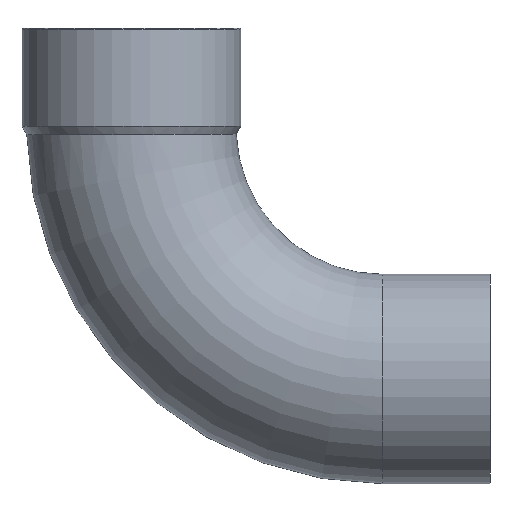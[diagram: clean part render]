
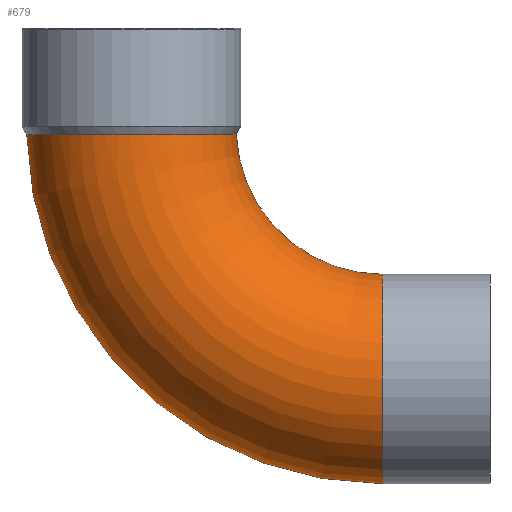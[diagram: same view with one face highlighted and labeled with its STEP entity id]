
A CAD part, front view. The second image highlights one B-rep face of the part: STEP entity #679.
In plain terms, the highlighted toroidal (fillet/blend) face has major radius 96 mm and minor radius 40 mm.
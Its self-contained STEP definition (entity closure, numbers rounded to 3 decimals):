
#49=CARTESIAN_POINT('',(-113.939,0.,-2.645));
#50=VERTEX_POINT('',#49);
#51=CARTESIAN_POINT('',(22.035,0.,-136.0));
#52=VERTEX_POINT('',#51);
#53=CARTESIAN_POINT('',(22.035,0.,0.0));
#54=DIRECTION('',(0.0,-1.0,0.0));
#55=DIRECTION('',(0.0,0.0,-1.0));
#56=AXIS2_PLACEMENT_3D('',#53,#54,#55);
#57=CIRCLE('',#56,136.0);
#58=EDGE_CURVE('',#50,#52,#57,.T.);
#60=CARTESIAN_POINT('',(-33.909,0.,-2.503));
#61=VERTEX_POINT('',#60);
#85=CARTESIAN_POINT('',(22.035,0.,-56.0));
#86=VERTEX_POINT('',#85);
#87=CARTESIAN_POINT('',(22.035,0.,0.0));
#88=DIRECTION('',(0.0,1.0,0.0));
#89=DIRECTION('',(0.0,0.0,-1.0));
#90=AXIS2_PLACEMENT_3D('',#87,#88,#89);
#91=CIRCLE('',#90,56.0);
#92=EDGE_CURVE('',#86,#61,#91,.T.);
#210=CARTESIAN_POINT('',(-33.909,0.,-2.503));
#211=CARTESIAN_POINT('',(-33.909,-0.348,-2.503));
#212=CARTESIAN_POINT('',(-33.914,-0.696,-2.503));
#213=CARTESIAN_POINT('',(-34.059,-6.249,-2.504));
#214=CARTESIAN_POINT('',(-35.211,-11.378,-2.508));
#215=CARTESIAN_POINT('',(-39.417,-20.909,-2.523));
#216=CARTESIAN_POINT('',(-42.433,-25.219,-2.533));
#217=CARTESIAN_POINT('',(-49.948,-32.443,-2.553));
#218=CARTESIAN_POINT('',(-54.376,-35.286,-2.564));
#219=CARTESIAN_POINT('',(-64.072,-39.116,-2.584));
#220=CARTESIAN_POINT('',(-69.247,-40.065,-2.593));
#221=CARTESIAN_POINT('',(-79.669,-39.928,-2.609));
#222=CARTESIAN_POINT('',(-84.816,-38.842,-2.615));
#223=CARTESIAN_POINT('',(-94.402,-34.759,-2.626));
#224=CARTESIAN_POINT('',(-98.751,-31.802,-2.631));
#225=CARTESIAN_POINT('',(-106.068,-24.388,-2.638));
#226=CARTESIAN_POINT('',(-108.968,-20.002,-2.64));
#227=CARTESIAN_POINT('',(-112.922,-10.366,-2.644));
#228=CARTESIAN_POINT('',(-113.939,-5.208,-2.645));
#229=CARTESIAN_POINT('',(-113.939,0.,-2.645));
#230=B_SPLINE_CURVE_WITH_KNOTS('',3,(#210,#211,#212,#213,#214,#215,#216,#217,#218,#219,#220,#221,#222,#223,#224,#225,#226,#227,#228,#229),.UNSPECIFIED.,.F.,.U.,(4,2,2,2,2,2,2,2,2,4),(-12.608,-12.503,-10.941,-9.378,-7.814,-6.251,-4.687,-3.125,-1.562,0.0),.UNSPECIFIED.);
#231=EDGE_CURVE('',#61,#50,#230,.T.);
#535=CARTESIAN_POINT('',(22.035,0.,-96.0));
#536=DIRECTION('',(-1.0,0.0,0.0));
#537=DIRECTION('',(0.0,0.0,-1.0));
#538=AXIS2_PLACEMENT_3D('',#535,#536,#537);
#539=CIRCLE('',#538,40.0);
#540=EDGE_CURVE('',#52,#86,#539,.T.);
#668=CARTESIAN_POINT('',(22.035,0.,0.0));
#669=DIRECTION('',(0.0,-1.0,0.0));
#670=DIRECTION('',(0.0,0.0,-1.0));
#671=AXIS2_PLACEMENT_3D('',#668,#669,#670);
#672=TOROIDAL_SURFACE('',#671,96.0,40.0);
#673=ORIENTED_EDGE('',*,*,#58,.T.);
#674=ORIENTED_EDGE('',*,*,#540,.T.);
#675=ORIENTED_EDGE('',*,*,#92,.T.);
#676=ORIENTED_EDGE('',*,*,#231,.T.);
#677=EDGE_LOOP('',(#673,#674,#675,#676));
#678=FACE_OUTER_BOUND('',#677,.T.);
#679=ADVANCED_FACE('',(#678),#672,.T.);
